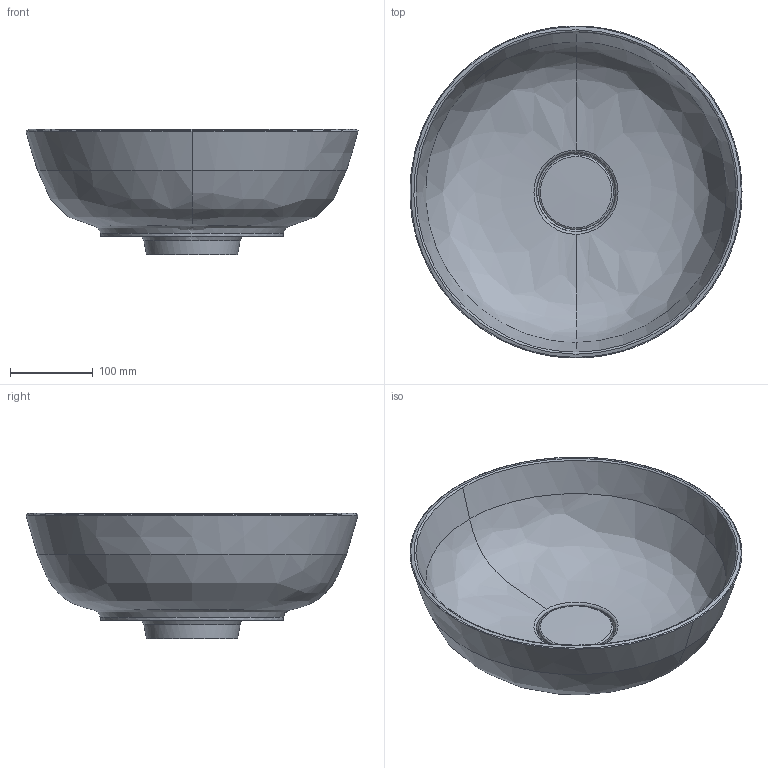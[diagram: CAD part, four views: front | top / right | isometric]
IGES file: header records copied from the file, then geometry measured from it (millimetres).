
Global section: file name: 267c5168-2c1d-4c0e-860e-a9e5752c7eb6; native system: unknown; preprocessor: unknown; author: unknown; organization: unknown; date: 20191126.082703; units: millimetre
Bounding box: 400.05 x 400.01 x 151.05 mm (x, y, z)
Volume: 2277432.3 mm3; surface area: 435061.1 mm2
Topology: 2 solids, 2 shells, 35 faces, 104 edges, 73 vertices
Faces by surface type: bspline 35
